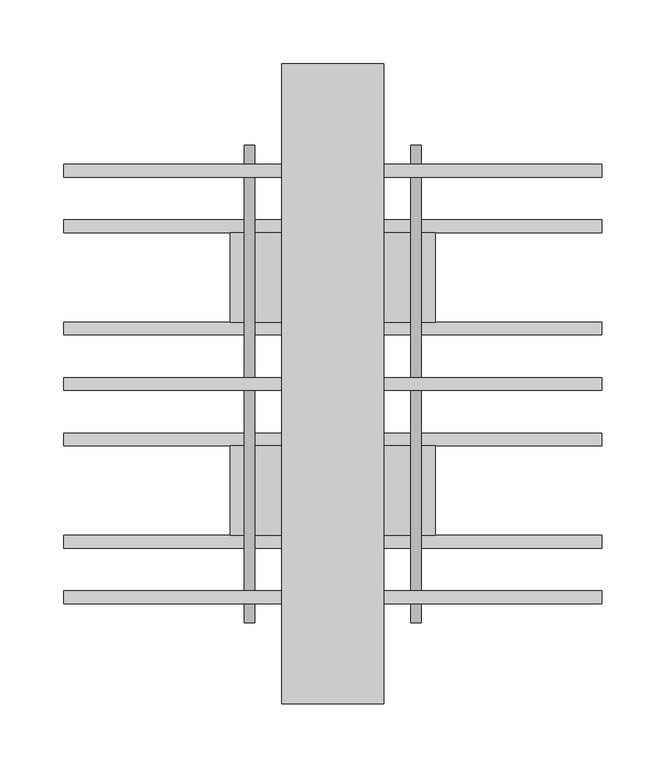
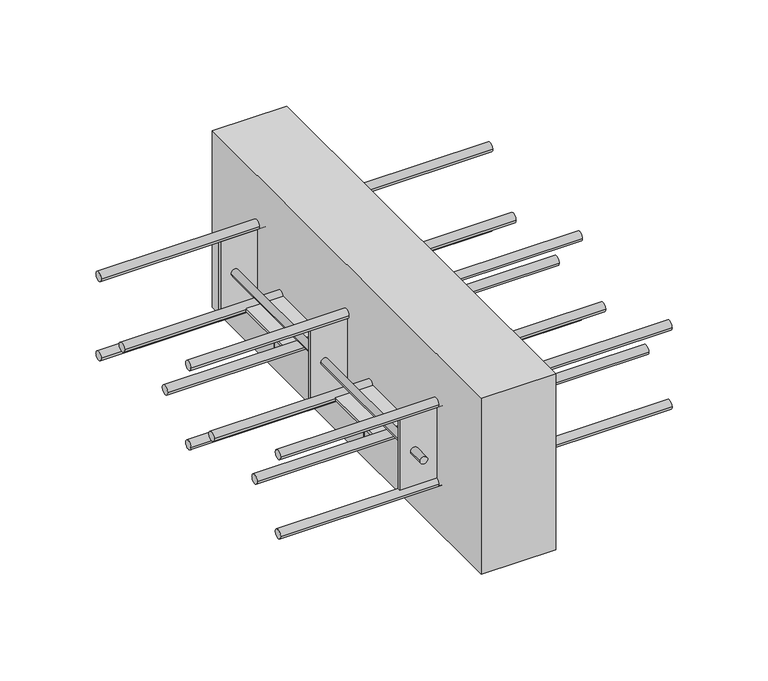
"""IFC4 building model written with IfcOpenShell, lengths in millimetres: proxy geometry, ACINOXplus_Typenreihe_Q : QB+ S2."""

from ifc_helpers import new_model, si_unit, point, frame, frame_2d, origin, place, context, project, spatial, polyline, circle_curve, trimmed, segment, composite_curve, outline, extrude, source, transform, mapped, element, save
from ifc_brep_helpers import plane_surface, cylinder_surface, advanced_brep


def generic_models_a8258ee3(model_context):
    return source(origin(), model_context, "Body", "SolidModel", [
        extrude(outline(composite_curve([segment(trimmed(circle_curve(frame_2d((-123.3333333, -109.0)), 5.0), [point((-128.3333333, -109.0))], [point((-118.3333333, -109.0))], False, "CARTESIAN"), True, "CONTINUOUS"), segment(trimmed(circle_curve(frame_2d((-123.3333333, -109.0)), 5.0), [point((-118.3333333, -109.0))], [point((-128.3333333, -109.0))], False, "CARTESIAN"), True, "CONTINUOUS")], self_intersect=False)), frame((-210.0, 0.0, 0.0), z_axis=(1.0, 0.0, 0.0), x_axis=(0.0, 1.0, 0.0)), (0.0, 0.0, 1.0), 420.0),
        extrude(outline(composite_curve([segment(trimmed(circle_curve(frame_2d((-43.3333333, -109.0)), 5.0), [point((-48.3333333, -109.0))], [point((-38.3333333, -109.0))], False, "CARTESIAN"), True, "CONTINUOUS"), segment(trimmed(circle_curve(frame_2d((-43.3333333, -109.0)), 5.0), [point((-38.3333333, -109.0))], [point((-48.3333333, -109.0))], False, "CARTESIAN"), True, "CONTINUOUS")], self_intersect=False)), frame((-210.0, 0.0, 0.0), z_axis=(1.0, 0.0, 0.0), x_axis=(0.0, 1.0, 0.0)), (0.0, 0.0, 1.0), 420.0),
        advanced_brep(
        [(-69.0, -83.3333333, -137.0), (-61.0, -83.3333333, -137.0), (61.0, -83.3333333, -137.0), (69.0, -83.3333333, -137.0), (-61.0, -83.3333333, -110.5), (-69.0, -83.3333333, -110.5), (69.0, -83.3333333, -110.5), (61.0, -83.3333333, -110.5), (80.0, -48.3333333, -107.5), (-80.0, -48.3333333, -107.5), (-80.0, -118.3333333, -107.5), (80.0, -118.3333333, -107.5), (80.0, -48.3333333, -110.5), (80.0, -118.3333333, -110.5), (-80.0, -118.3333333, -110.5), (-80.0, -48.3333333, -110.5)],
        [
            (0, 1, circle_curve(frame((-65.0, -83.3333333, -137.0), z_axis=(0.0, 0.0, -1.0), x_axis=(1.0, 0.0, 0.0)), 4.0)),
            (1, 0, circle_curve(frame((-65.0, -83.3333333, -137.0), z_axis=(0.0, 0.0, -1.0), x_axis=(1.0, 0.0, 0.0)), 4.0)),
            (2, 3, circle_curve(frame((65.0, -83.3333333, -137.0), z_axis=(0.0, 0.0, -1.0), x_axis=(1.0, 0.0, 0.0)), 4.0)),
            (3, 2, circle_curve(frame((65.0, -83.3333333, -137.0), z_axis=(0.0, 0.0, -1.0), x_axis=(1.0, 0.0, 0.0)), 4.0)),
            (1, 4),
            (4, 5, circle_curve(frame((-65.0, -83.3333333, -110.5), z_axis=(0.0, 0.0, -1.0), x_axis=(1.0, 0.0, 0.0)), 4.0)),
            (5, 0),
            (5, 4, circle_curve(frame((-65.0, -83.3333333, -110.5), z_axis=(0.0, 0.0, -1.0), x_axis=(1.0, 0.0, 0.0)), 4.0)),
            (3, 6),
            (6, 7, circle_curve(frame((65.0, -83.3333333, -110.5), z_axis=(0.0, 0.0, -1.0), x_axis=(1.0, 0.0, 0.0)), 4.0)),
            (7, 2),
            (7, 6, circle_curve(frame((65.0, -83.3333333, -110.5), z_axis=(0.0, 0.0, -1.0), x_axis=(1.0, 0.0, 0.0)), 4.0)),
            (8, 9),
            (9, 10),
            (10, 11),
            (11, 8),
            (12, 13),
            (13, 14),
            (14, 15),
            (15, 12),
            (8, 12),
            (15, 9),
            (14, 10),
            (13, 11),
        ],
        [
            plane_surface(frame((-61.0, -83.3333333, -137.0), z_axis=(0.0, 0.0, -1.0), x_axis=(0.0, -1.0, 0.0))),
            cylinder_surface(frame((-65.0, -83.3333333, -137.0), z_axis=(0.0, 0.0, 1.0), x_axis=(1.0, 0.0, 0.0)), 4.0),
            cylinder_surface(frame((65.0, -83.3333333, -109.0), z_axis=(0.0, 0.0, 1.0), x_axis=(1.0, 0.0, 0.0)), 4.0),
            plane_surface(frame((-80.0, -48.3333333, -107.5), z_axis=(0.0, 0.0, 1.0), x_axis=(-1.0, 0.0, 0.0))),
            plane_surface(frame((-80.0, -48.3333333, -110.5), z_axis=(0.0, 0.0, -1.0), x_axis=(1.0, 0.0, 0.0))),
            plane_surface(frame((80.0, -48.3333333, -107.5), z_axis=(0.0, 1.0, 0.0), x_axis=(0.0, 0.0, -1.0))),
            plane_surface(frame((-80.0, -48.3333333, -107.5), z_axis=(-1.0, 0.0, 0.0), x_axis=(0.0, 0.0, -1.0))),
            plane_surface(frame((-80.0, -118.3333333, -107.5), z_axis=(0.0, -1.0, 0.0), x_axis=(0.0, 0.0, -1.0))),
            plane_surface(frame((80.0, -118.3333333, -107.5), z_axis=(1.0, 0.0, 0.0), x_axis=(0.0, 0.0, -1.0))),
        ],
        [
            (0, [[1, 2]]),
            (0, [[3, 4]]),
            (1, [[-2, 5, 6, 7]]),
            (1, [[-1, -7, 8, -5]]),
            (2, [[-4, 9, 10, 11]]),
            (2, [[-3, -11, 12, -9]]),
            (3, [[13, 14, 15, 16]]),
            (4, [[17, 18, 19, 20], [-6, -8], [-10, -12]]),
            (5, [[-13, 21, -20, 22]]),
            (6, [[-14, -22, -19, 23]]),
            (7, [[-15, -23, -18, 24]]),
            (8, [[-16, -24, -17, -21]]),
        ],
    ),
        extrude(outline(composite_curve([segment(trimmed(circle_curve(frame_2d((43.3333333, -109.0)), 5.0), [point((38.3333333, -109.0))], [point((48.3333333, -109.0))], False, "CARTESIAN"), True, "CONTINUOUS"), segment(trimmed(circle_curve(frame_2d((43.3333333, -109.0)), 5.0), [point((48.3333333, -109.0))], [point((38.3333333, -109.0))], False, "CARTESIAN"), True, "CONTINUOUS")], self_intersect=False)), frame((-210.0, 0.0, 0.0), z_axis=(1.0, 0.0, 0.0), x_axis=(0.0, 1.0, 0.0)), (0.0, 0.0, 1.0), 420.0),
        extrude(outline(composite_curve([segment(trimmed(circle_curve(frame_2d((123.3333333, -109.0)), 5.0), [point((118.3333333, -109.0))], [point((128.3333333, -109.0))], False, "CARTESIAN"), True, "CONTINUOUS"), segment(trimmed(circle_curve(frame_2d((123.3333333, -109.0)), 5.0), [point((128.3333333, -109.0))], [point((118.3333333, -109.0))], False, "CARTESIAN"), True, "CONTINUOUS")], self_intersect=False)), frame((-210.0, 0.0, 0.0), z_axis=(1.0, 0.0, 0.0), x_axis=(0.0, 1.0, 0.0)), (0.0, 0.0, 1.0), 420.0),
        advanced_brep(
        [(-69.0, 83.3333333, -137.0), (-61.0, 83.3333333, -137.0), (61.0, 83.3333333, -137.0), (69.0, 83.3333333, -137.0), (-61.0, 83.3333333, -110.5), (-69.0, 83.3333333, -110.5), (69.0, 83.3333333, -110.5), (61.0, 83.3333333, -110.5), (80.0, 118.3333333, -107.5), (-80.0, 118.3333333, -107.5), (-80.0, 48.3333333, -107.5), (80.0, 48.3333333, -107.5), (80.0, 118.3333333, -110.5), (80.0, 48.3333333, -110.5), (-80.0, 48.3333333, -110.5), (-80.0, 118.3333333, -110.5)],
        [
            (0, 1, circle_curve(frame((-65.0, 83.3333333, -137.0), z_axis=(0.0, 0.0, -1.0), x_axis=(1.0, 0.0, 0.0)), 4.0)),
            (1, 0, circle_curve(frame((-65.0, 83.3333333, -137.0), z_axis=(0.0, 0.0, -1.0), x_axis=(1.0, 0.0, 0.0)), 4.0)),
            (2, 3, circle_curve(frame((65.0, 83.3333333, -137.0), z_axis=(0.0, 0.0, -1.0), x_axis=(1.0, 0.0, 0.0)), 4.0)),
            (3, 2, circle_curve(frame((65.0, 83.3333333, -137.0), z_axis=(0.0, 0.0, -1.0), x_axis=(1.0, 0.0, 0.0)), 4.0)),
            (1, 4),
            (4, 5, circle_curve(frame((-65.0, 83.3333333, -110.5), z_axis=(0.0, 0.0, -1.0), x_axis=(1.0, 0.0, 0.0)), 4.0)),
            (5, 0),
            (5, 4, circle_curve(frame((-65.0, 83.3333333, -110.5), z_axis=(0.0, 0.0, -1.0), x_axis=(1.0, 0.0, 0.0)), 4.0)),
            (3, 6),
            (6, 7, circle_curve(frame((65.0, 83.3333333, -110.5), z_axis=(0.0, 0.0, -1.0), x_axis=(1.0, 0.0, 0.0)), 4.0)),
            (7, 2),
            (7, 6, circle_curve(frame((65.0, 83.3333333, -110.5), z_axis=(0.0, 0.0, -1.0), x_axis=(1.0, 0.0, 0.0)), 4.0)),
            (8, 9),
            (9, 10),
            (10, 11),
            (11, 8),
            (12, 13),
            (13, 14),
            (14, 15),
            (15, 12),
            (8, 12),
            (15, 9),
            (14, 10),
            (13, 11),
        ],
        [
            plane_surface(frame((-61.0, 83.3333333, -137.0), z_axis=(0.0, 0.0, -1.0), x_axis=(0.0, -1.0, 0.0))),
            cylinder_surface(frame((-65.0, 83.3333333, -137.0), z_axis=(0.0, 0.0, 1.0), x_axis=(1.0, 0.0, 0.0)), 4.0),
            cylinder_surface(frame((65.0, 83.3333333, -109.0), z_axis=(0.0, 0.0, 1.0), x_axis=(1.0, 0.0, 0.0)), 4.0),
            plane_surface(frame((-80.0, 118.3333333, -107.5), z_axis=(0.0, 0.0, 1.0), x_axis=(-1.0, 0.0, 0.0))),
            plane_surface(frame((-80.0, 118.3333333, -110.5), z_axis=(0.0, 0.0, -1.0), x_axis=(1.0, 0.0, 0.0))),
            plane_surface(frame((80.0, 118.3333333, -107.5), z_axis=(0.0, 1.0, 0.0), x_axis=(0.0, 0.0, -1.0))),
            plane_surface(frame((-80.0, 118.3333333, -107.5), z_axis=(-1.0, 0.0, 0.0), x_axis=(0.0, 0.0, -1.0))),
            plane_surface(frame((-80.0, 48.3333333, -107.5), z_axis=(0.0, -1.0, 0.0), x_axis=(0.0, 0.0, -1.0))),
            plane_surface(frame((80.0, 48.3333333, -107.5), z_axis=(1.0, 0.0, 0.0), x_axis=(0.0, 0.0, -1.0))),
        ],
        [
            (0, [[1, 2]]),
            (0, [[3, 4]]),
            (1, [[-2, 5, 6, 7]]),
            (1, [[-1, -7, 8, -5]]),
            (2, [[-4, 9, 10, 11]]),
            (2, [[-3, -11, 12, -9]]),
            (3, [[13, 14, 15, 16]]),
            (4, [[17, 18, 19, 20], [-6, -8], [-10, -12]]),
            (5, [[-13, 21, -20, 22]]),
            (6, [[-14, -22, -19, 23]]),
            (7, [[-15, -23, -18, 24]]),
            (8, [[-16, -24, -17, -21]]),
        ],
    ),
        extrude(outline(polyline([(40.0, 250.0), (40.0, -250.0), (-40.0, -250.0), (-40.0, 250.0), (40.0, 250.0)])), frame((0.0, 0.0, -200.0), z_axis=(0.0, 0.0, 1.0), x_axis=(1.0, 0.0, 0.0)), (0.0, 0.0, 1.0), 200.0),
        extrude(outline(polyline([(80.0, 1.5), (80.0, -1.5), (-80.0, -1.5), (-80.0, 1.5), (80.0, 1.5)])), frame((0.0, 0.0, -140.0), z_axis=(0.0, 0.0, 1.0), x_axis=(1.0, 0.0, 0.0)), (0.0, 0.0, 1.0), 80.0),
        extrude(outline(polyline([(80.0, -165.1666667), (80.0, -168.1666667), (-80.0, -168.1666667), (-80.0, -165.1666667), (80.0, -165.1666667)])), frame((0.0, 0.0, -140.0), z_axis=(0.0, 0.0, 1.0), x_axis=(1.0, 0.0, 0.0)), (0.0, 0.0, 1.0), 80.0),
        extrude(outline(polyline([(80.0, 168.1666667), (80.0, 165.1666667), (-80.0, 165.1666667), (-80.0, 168.1666667), (80.0, 168.1666667)])), frame((0.0, 0.0, -140.0), z_axis=(0.0, 0.0, 1.0), x_axis=(1.0, 0.0, 0.0)), (0.0, 0.0, 1.0), 80.0),
        extrude(outline(composite_curve([segment(trimmed(circle_curve(frame_2d((-100.0, -65.0)), 4.0), [point((-100.0, -69.0))], [point((-100.0, -61.0))], False, "CARTESIAN"), True, "CONTINUOUS"), segment(trimmed(circle_curve(frame_2d((-100.0, -65.0)), 4.0), [point((-100.0, -61.0))], [point((-100.0, -69.0))], False, "CARTESIAN"), True, "CONTINUOUS")], self_intersect=False)), frame((0.0, 168.1666667, 0.0), z_axis=(0.0, 1.0, 0.0), x_axis=(0.0, 0.0, 1.0)), (0.0, 0.0, 1.0), 18.5),
        extrude(outline(composite_curve([segment(trimmed(circle_curve(frame_2d((-100.0, -65.0)), 4.0), [point((-100.0, -61.0))], [point((-100.0, -69.0))], False, "CARTESIAN"), True, "CONTINUOUS"), segment(trimmed(circle_curve(frame_2d((-100.0, -65.0)), 4.0), [point((-100.0, -69.0))], [point((-100.0, -61.0))], False, "CARTESIAN"), True, "CONTINUOUS")], self_intersect=False)), frame((0.0, -186.6666667, 0.0), z_axis=(0.0, 1.0, 0.0), x_axis=(0.0, 0.0, 1.0)), (0.0, 0.0, 1.0), 18.5),
        extrude(outline(composite_curve([segment(trimmed(circle_curve(frame_2d((-100.0, -65.0)), 4.0), [point((-100.0, -69.0))], [point((-100.0, -61.0))], False, "CARTESIAN"), True, "CONTINUOUS"), segment(trimmed(circle_curve(frame_2d((-100.0, -65.0)), 4.0), [point((-100.0, -61.0))], [point((-100.0, -69.0))], False, "CARTESIAN"), True, "CONTINUOUS")], self_intersect=False)), frame((0.0, -165.1666667, 0.0), z_axis=(0.0, 1.0, 0.0), x_axis=(0.0, 0.0, 1.0)), (0.0, 0.0, 1.0), 163.6666667),
        extrude(outline(composite_curve([segment(trimmed(circle_curve(frame_2d((-100.0, -65.0)), 4.0), [point((-100.0, -69.0))], [point((-100.0, -61.0))], False, "CARTESIAN"), True, "CONTINUOUS"), segment(trimmed(circle_curve(frame_2d((-100.0, -65.0)), 4.0), [point((-100.0, -61.0))], [point((-100.0, -69.0))], False, "CARTESIAN"), True, "CONTINUOUS")], self_intersect=False)), frame((0.0, 1.5, 0.0), z_axis=(0.0, 1.0, 0.0), x_axis=(0.0, 0.0, 1.0)), (0.0, 0.0, 1.0), 163.6666667),
        extrude(outline(composite_curve([segment(trimmed(circle_curve(frame_2d((-100.0, 65.0)), 4.0), [point((-100.0, 61.0))], [point((-100.0, 69.0))], False, "CARTESIAN"), True, "CONTINUOUS"), segment(trimmed(circle_curve(frame_2d((-100.0, 65.0)), 4.0), [point((-100.0, 69.0))], [point((-100.0, 61.0))], False, "CARTESIAN"), True, "CONTINUOUS")], self_intersect=False)), frame((0.0, 168.1666667, 0.0), z_axis=(0.0, 1.0, 0.0), x_axis=(0.0, 0.0, 1.0)), (0.0, 0.0, 1.0), 18.5),
        extrude(outline(composite_curve([segment(trimmed(circle_curve(frame_2d((-100.0, 65.0)), 4.0), [point((-100.0, 69.0))], [point((-100.0, 61.0))], False, "CARTESIAN"), True, "CONTINUOUS"), segment(trimmed(circle_curve(frame_2d((-100.0, 65.0)), 4.0), [point((-100.0, 61.0))], [point((-100.0, 69.0))], False, "CARTESIAN"), True, "CONTINUOUS")], self_intersect=False)), frame((0.0, -186.6666667, 0.0), z_axis=(0.0, 1.0, 0.0), x_axis=(0.0, 0.0, 1.0)), (0.0, 0.0, 1.0), 18.5),
        extrude(outline(composite_curve([segment(trimmed(circle_curve(frame_2d((-100.0, 65.0)), 4.0), [point((-100.0, 61.0))], [point((-100.0, 69.0))], False, "CARTESIAN"), True, "CONTINUOUS"), segment(trimmed(circle_curve(frame_2d((-100.0, 65.0)), 4.0), [point((-100.0, 69.0))], [point((-100.0, 61.0))], False, "CARTESIAN"), True, "CONTINUOUS")], self_intersect=False)), frame((0.0, -165.1666667, 0.0), z_axis=(0.0, 1.0, 0.0), x_axis=(0.0, 0.0, 1.0)), (0.0, 0.0, 1.0), 163.6666667),
        extrude(outline(composite_curve([segment(trimmed(circle_curve(frame_2d((-100.0, 65.0)), 4.0), [point((-100.0, 61.0))], [point((-100.0, 69.0))], False, "CARTESIAN"), True, "CONTINUOUS"), segment(trimmed(circle_curve(frame_2d((-100.0, 65.0)), 4.0), [point((-100.0, 69.0))], [point((-100.0, 61.0))], False, "CARTESIAN"), True, "CONTINUOUS")], self_intersect=False)), frame((0.0, 1.5, 0.0), z_axis=(0.0, 1.0, 0.0), x_axis=(0.0, 0.0, 1.0)), (0.0, 0.0, 1.0), 163.6666667),
        extrude(outline(composite_curve([segment(trimmed(circle_curve(frame_2d((0.0, -145.0)), 5.0), [point((-5.0, -145.0))], [point((5.0, -145.0))], False, "CARTESIAN"), True, "CONTINUOUS"), segment(trimmed(circle_curve(frame_2d((0.0, -145.0)), 5.0), [point((5.0, -145.0))], [point((-5.0, -145.0))], False, "CARTESIAN"), True, "CONTINUOUS")], self_intersect=False)), frame((-210.0, 0.0, 0.0), z_axis=(1.0, 0.0, 0.0), x_axis=(0.0, 1.0, 0.0)), (0.0, 0.0, 1.0), 420.0),
        extrude(outline(composite_curve([segment(trimmed(circle_curve(frame_2d((166.6666667, -145.0)), 5.0), [point((161.6666667, -145.0))], [point((171.6666667, -145.0))], False, "CARTESIAN"), True, "CONTINUOUS"), segment(trimmed(circle_curve(frame_2d((166.6666667, -145.0)), 5.0), [point((171.6666667, -145.0))], [point((161.6666667, -145.0))], False, "CARTESIAN"), True, "CONTINUOUS")], self_intersect=False)), frame((-210.0, 0.0, 0.0), z_axis=(1.0, 0.0, 0.0), x_axis=(0.0, 1.0, 0.0)), (0.0, 0.0, 1.0), 420.0),
        extrude(outline(composite_curve([segment(trimmed(circle_curve(frame_2d((-166.6666667, -145.0)), 5.0), [point((-171.6666667, -145.0))], [point((-161.6666667, -145.0))], False, "CARTESIAN"), True, "CONTINUOUS"), segment(trimmed(circle_curve(frame_2d((-166.6666667, -145.0)), 5.0), [point((-161.6666667, -145.0))], [point((-171.6666667, -145.0))], False, "CARTESIAN"), True, "CONTINUOUS")], self_intersect=False)), frame((-210.0, 0.0, 0.0), z_axis=(1.0, 0.0, 0.0), x_axis=(0.0, 1.0, 0.0)), (0.0, 0.0, 1.0), 420.0),
        extrude(outline(composite_curve([segment(trimmed(circle_curve(frame_2d((0.0, -55.0)), 5.0), [point((-5.0, -55.0))], [point((5.0, -55.0))], False, "CARTESIAN"), True, "CONTINUOUS"), segment(trimmed(circle_curve(frame_2d((0.0, -55.0)), 5.0), [point((5.0, -55.0))], [point((-5.0, -55.0))], False, "CARTESIAN"), True, "CONTINUOUS")], self_intersect=False)), frame((-210.0, 0.0, 0.0), z_axis=(1.0, 0.0, 0.0), x_axis=(0.0, 1.0, 0.0)), (0.0, 0.0, 1.0), 420.0),
        extrude(outline(composite_curve([segment(trimmed(circle_curve(frame_2d((166.6666667, -55.0)), 5.0), [point((161.6666667, -55.0))], [point((171.6666667, -55.0))], False, "CARTESIAN"), True, "CONTINUOUS"), segment(trimmed(circle_curve(frame_2d((166.6666667, -55.0)), 5.0), [point((171.6666667, -55.0))], [point((161.6666667, -55.0))], False, "CARTESIAN"), True, "CONTINUOUS")], self_intersect=False)), frame((-210.0, 0.0, 0.0), z_axis=(1.0, 0.0, 0.0), x_axis=(0.0, 1.0, 0.0)), (0.0, 0.0, 1.0), 420.0),
        extrude(outline(composite_curve([segment(trimmed(circle_curve(frame_2d((-166.6666667, -55.0)), 5.0), [point((-171.6666667, -55.0))], [point((-161.6666667, -55.0))], False, "CARTESIAN"), True, "CONTINUOUS"), segment(trimmed(circle_curve(frame_2d((-166.6666667, -55.0)), 5.0), [point((-161.6666667, -55.0))], [point((-171.6666667, -55.0))], False, "CARTESIAN"), True, "CONTINUOUS")], self_intersect=False)), frame((-210.0, 0.0, 0.0), z_axis=(1.0, 0.0, 0.0), x_axis=(0.0, 1.0, 0.0)), (0.0, 0.0, 1.0), 420.0),
    ])


if __name__ == "__main__":
    model = new_model("IFC4")
    model_context = context("Model", 3, world=origin())
    ifc_project = project(units=[si_unit("LENGTHUNIT", "METRE", prefix="MILLI")], contexts=[model_context])
    site = spatial("IfcSite", under=ifc_project)
    building = spatial("IfcBuilding", under=site)
    placement = place(None, origin())
    generic_models_shape = generic_models_a8258ee3(model_context)
    element("IfcBuildingElementProxy", 1, Name="ACINOXplus_Typenreihe_Q : QB+ S2", ObjectType="ACINOXplus_Typenreihe_Q : QB+ S2", at=placement, inside=building, context=model_context, shape_type="MappedRepresentation", body=[
        mapped(generic_models_shape, transform((0.0, 0.0, 0.0), x_axis=(1.0, 0.0, 0.0), y_axis=(0.0, 1.0, 0.0), z_axis=(0.0, 0.0, 1.0))),
    ])
    save(model, "model.ifc")
